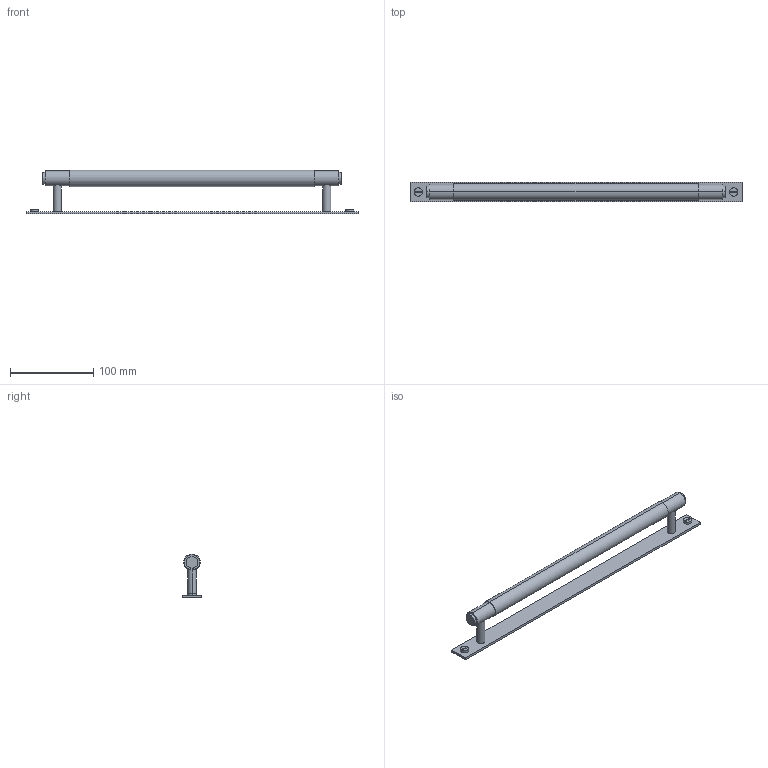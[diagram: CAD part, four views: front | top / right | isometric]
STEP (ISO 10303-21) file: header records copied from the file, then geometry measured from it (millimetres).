
FILE_DESCRIPTION (( 'STEP AP203' ), '1' );
FILE_NAME ('Pull Bar 400 Plate.STEP', '2016-10-12T14:14:12', ( '' ), ( '' ), 'SwSTEP 2.0', 'SolidWorks 2014', '' );
FILE_SCHEMA (( 'CONFIG_CONTROL_DESIGN' ));
Length unit declared in the file: millimetre
Products named in the file (1): Pull Bar 400 Plate
Bounding box: 400 x 23 x 53 mm (x, y, z)
Volume: 142171.8 mm3; surface area: 45656 mm2
Topology: 1 solids, 1 shells, 38 faces, 80 edges, 52 vertices
Faces by surface type: cylinder 20, plane 18
Entity records: 1249 total; most frequent: CARTESIAN_POINT 319, DIRECTION 190, ORIENTED_EDGE 160, EDGE_CURVE 80, AXIS2_PLACEMENT_3D 75, VERTEX_POINT 52, EDGE_LOOP 48, LINE 40
